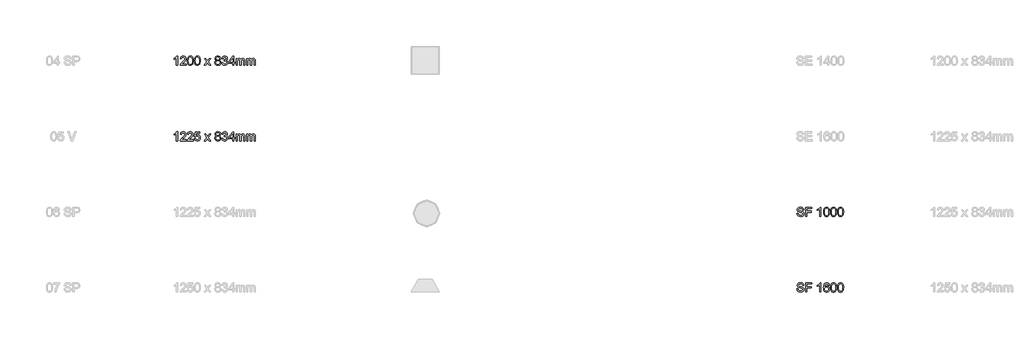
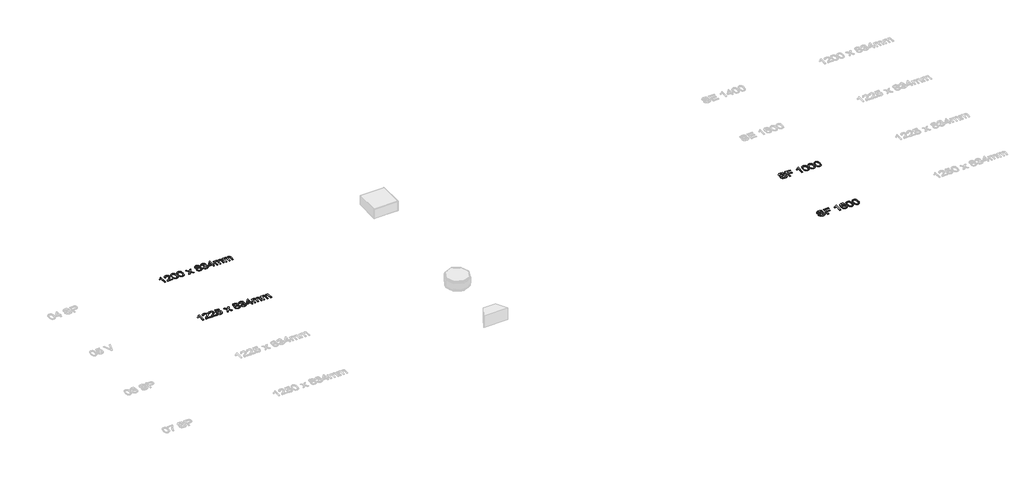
# One storey, part 23 of 67: 4 proxies.
"""IFC4 building model written with IfcOpenShell, lengths in millimetres."""

from ifc_helpers import new_model, si_unit, origin, origin_with_axes, place, context, project, spatial, polyline, outline, extrude, element, save

model = new_model("IFC4")

# Units and contexts
model_context = context("Model", 3, world=origin())
ifc_project = project(units=[si_unit("LENGTHUNIT", "METRE", prefix="MILLI")], contexts=[model_context])

# Site, building, storey
site = spatial("IfcSite", under=ifc_project)
building = spatial("IfcBuilding", under=site)
storey = spatial("IfcBuildingStorey", under=building, Name="Marelli - Linha COLAB - Planta Baixa", Elevation=0.0)

# Proxies
placement = place(None, origin())
element("IfcBuildingElementProxy", 1, Name="300mm Arial", ObjectType="300mm Arial", at=placement, inside=storey, context=model_context, shape_type="SweptSolid", body=[
    extrude(outline(polyline([(-25317.6891758, -1280.5663201), (-25355.3602921, -1280.5663201), (-25355.3602921, -1045.7104543), (-25391.0448457, -1071.1311002), (-25430.7025247, -1090.1505994), (-25430.7025247, -1054.5396222), (-25401.1156153, -1038.4447849), (-25375.4834373, -1019.2965271), (-25355.2775187, -998.9342587), (-25341.9693875, -979.1973896), (-25317.6891758, -979.1973896), (-25317.6891758, -1280.5663201)])), origin_with_axes(), (0.0, 0.0, 1.0), 10.0),
    extrude(outline(polyline([(-25035.1558035, -1242.8952038), (-25035.1558035, -1280.5663201), (-25232.9291641, -1280.5663201), (-25228.8824622, -1254.5938512), (-25219.5934418, -1234.2959621), (-25206.0002021, -1214.6050783), (-25186.3369094, -1193.9944896), (-25158.8377303, -1170.9374855), (-25118.1867698, -1134.8298677), (-25093.7961935, -1108.1768171), (-25081.6009054, -1086.5453558), (-25077.5358094, -1065.5025057), (-25081.3709792, -1046.6393564), (-25092.8764886, -1030.9583863), (-25110.5624155, -1020.390976), (-25132.9388378, -1016.8685059), (-25156.4373003, -1020.3082026), (-25174.6934443, -1030.6272925), (-25186.4748652, -1047.0164354), (-25190.5491583, -1068.6662908), (-25228.2202746, -1063.9574013), (-25219.0876041, -1027.5186897), (-25210.5412455, -1012.9827524), (-25199.341538, -1000.9024273), (-25185.745999, -991.4064733), (-25170.0121459, -984.623649), (-25132.1294974, -979.1973896), (-25111.9396737, -980.7057058), (-25093.9709375, -985.2306543), (-25078.2232888, -992.7722352), (-25064.6967277, -1003.3304485), (-25053.8327126, -1016.1235449), (-25046.0727017, -1030.3697751), (-25041.4166952, -1046.0691393), (-25039.8646931, -1063.2216373), (-25041.5385561, -1081.238658), (-25046.5601454, -1098.942979), (-25055.4720867, -1116.9508027), (-25068.8170061, -1135.8783314), (-25090.0897824, -1158.4754829), (-25122.7852948, -1187.4921753), (-25166.1217938, -1223.7285518), (-25183.117942, -1242.8952038), (-25035.1558035, -1242.8952038)])), origin_with_axes(), (0.0, 0.0, 1.0), 10.0),
    extrude(outline(polyline([(-24997.4846872, -1132.309876), (-24994.7163752, -1084.0713494), (-24986.4114392, -1045.6000897), (-24972.6526525, -1016.3074859), (-24953.5227888, -995.6049266), (-24928.8838922, -983.2992739), (-24898.5980069, -979.1973896), (-24875.384653, -981.6254108), (-24854.5993203, -988.9094743), (-24837.216896, -1000.7644716), (-24824.2122675, -1016.9052941), (-24814.3898182, -1037.1939862), (-24806.5539317, -1061.4925919), (-24801.4219779, -1092.3486943), (-24799.7113266, -1132.309876), (-24802.4520475, -1180.2724911), (-24810.6742101, -1218.6517803), (-24824.3502232, -1247.9719753), (-24843.4524958, -1268.757308), (-24868.1465748, -1281.1457342), (-24898.5980069, -1285.2752096), (-24919.3465514, -1283.4817849), (-24937.7406512, -1278.1015107), (-24953.7803062, -1269.1343871), (-24967.4655164, -1256.580414), (-24980.5989036, -1233.8866934), (-24989.9798945, -1205.6103636), (-24995.608489, -1171.7514244), (-24997.4846872, -1132.309876)]), holes=[polyline([(-24959.8135709, -1132.2362996), (-24955.398987, -1191.492892), (-24949.880757, -1211.7608907), (-24942.1552351, -1225.788691), (-24922.4367602, -1242.1502427), (-24898.5980069, -1247.6040933), (-24874.7592536, -1242.1318486), (-24855.0407787, -1225.7151146), (-24847.3152568, -1211.6643216), (-24841.7970269, -1191.4009215), (-24837.3824429, -1132.2362996), (-24841.6498741, -1074.3132795), (-24846.984163, -1054.1119594), (-24854.4521675, -1039.750766), (-24874.1338542, -1022.589071), (-24899.0394653, -1016.8685059), (-24922.6207012, -1021.9084893), (-24941.5666239, -1037.0284393), (-24949.5496632, -1052.6634241), (-24955.2518342, -1073.7430624), (-24959.8135709, -1132.2362996)])]), origin_with_axes(), (0.0, 0.0, 1.0), 10.0),
    extrude(outline(polyline([(-24766.7490998, -1132.309876), (-24763.9807878, -1084.0713494), (-24755.6758518, -1045.6000897), (-24741.9170652, -1016.3074859), (-24722.7872014, -995.6049266), (-24698.1483048, -983.2992739), (-24667.8624195, -979.1973896), (-24644.6490656, -981.6254108), (-24623.8637329, -988.9094743), (-24606.4813086, -1000.7644716), (-24593.4766801, -1016.9052941), (-24583.6542308, -1037.1939862), (-24575.8183443, -1061.4925919), (-24570.6863905, -1092.3486943), (-24568.9757392, -1132.309876), (-24571.7164601, -1180.2724911), (-24579.9386227, -1218.6517803), (-24593.6146359, -1247.9719753), (-24612.7169085, -1268.757308), (-24637.4109874, -1281.1457342), (-24667.8624195, -1285.2752096), (-24688.6109641, -1283.4817849), (-24707.0050638, -1278.1015107), (-24723.0447188, -1269.1343871), (-24736.729929, -1256.580414), (-24749.8633163, -1233.8866934), (-24759.2443071, -1205.6103636), (-24764.8729017, -1171.7514244), (-24766.7490998, -1132.309876)]), holes=[polyline([(-24729.0779835, -1132.2362996), (-24724.6633996, -1191.492892), (-24719.1451697, -1211.7608907), (-24711.4196478, -1225.788691), (-24691.7011728, -1242.1502427), (-24667.8624195, -1247.6040933), (-24644.0236662, -1242.1318486), (-24624.3051913, -1225.7151146), (-24616.5796694, -1211.6643216), (-24611.0614395, -1191.4009215), (-24606.6468555, -1132.2362996), (-24610.9142867, -1074.3132795), (-24616.2485756, -1054.1119594), (-24623.7165801, -1039.750766), (-24643.3982669, -1022.589071), (-24668.3038779, -1016.8685059), (-24691.8851138, -1021.9084893), (-24710.8310366, -1037.0284393), (-24718.8140759, -1052.6634241), (-24724.5162468, -1073.7430624), (-24729.0779835, -1132.2362996)])]), origin_with_axes(), (0.0, 0.0, 1.0), 10.0),
    extrude(outline(polyline([(-24432.4179426, -1280.5663201), (-24351.9253621, -1169.3188047), (-24427.7090531, -1059.2485118), (-24382.3859913, -1059.2485118), (-24345.818521, -1112.2235191), (-24328.7487964, -1137.2394947), (-24313.9599402, -1116.7852558), (-24272.3156983, -1059.2485118), (-24226.9926365, -1059.2485118), (-24306.6023003, -1169.3188047), (-24229.9356925, -1280.5663201), (-24275.2587543, -1280.5663201), (-24321.3911565, -1213.6853733), (-24329.8524424, -1201.4716911), (-24387.0948808, -1280.5663201), (-24432.4179426, -1280.5663201)])), origin_with_axes(), (0.0, 0.0, 1.0), 10.0),
    extrude(outline(polyline([(-24033.7810126, -1114.5779638), (-24053.950143, -1104.64515), (-24068.1044028, -1091.180669), (-24076.4645211, -1074.4604323), (-24079.2512273, -1054.7603514), (-24077.733714, -1039.3966796), (-24073.1811743, -1025.3113977), (-24065.5936082, -1012.5045058), (-24054.9710156, -1000.9760037), (-24041.8238328, -991.4478601), (-24026.662496, -984.6420431), (-23990.2973608, -979.1973896), (-23953.7114964, -984.7708018), (-23938.3846128, -991.7375671), (-23925.0350949, -1001.4910385), (-23914.2193642, -1013.2448683), (-23906.4938423, -1026.2127086), (-23901.8585292, -1040.3945595), (-23900.3134248, -1055.790421), (-23903.0633427, -1074.8559054), (-23911.3130965, -1091.2910335), (-23925.1546565, -1104.6727411), (-23944.6799934, -1114.5779638), (-23921.4942307, -1126.5249316), (-23904.6176441, -1144.1188881), (-23894.3261453, -1166.5137045), (-23890.8956457, -1192.8632524), (-23892.5970999, -1211.6528253), (-23897.7014626, -1228.8788997), (-23906.2087338, -1244.5414757), (-23918.1189134, -1258.6405532), (-23932.806602, -1270.2932154), (-23949.6464003, -1278.6165455), (-23968.6383084, -1283.6105436), (-23989.782326, -1285.2752096), (-24010.9263437, -1283.6036458), (-24029.9182517, -1278.5889543), (-24046.75805, -1270.2311353), (-24061.4457387, -1258.5301886), (-24073.3559183, -1244.3322428), (-24081.8631894, -1228.4834266), (-24086.9675521, -1210.9837399), (-24088.6690063, -1191.8331828), (-24085.100551, -1164.4627624), (-24074.3951849, -1141.9483843), (-24057.1047311, -1125.0626007), (-24033.7810126, -1114.5779638)]), holes=[polyline([(-24050.99789, -1190.5088076), (-24044.7071079, -1218.8725095), (-24035.9975017, -1231.0402065), (-24022.4502472, -1240.0993006), (-24006.2266512, -1245.7278951), (-23989.4880204, -1247.6040933), (-23963.8466454, -1243.6585589), (-23944.606417, -1231.8219557), (-23932.5766758, -1213.8969055), (-23928.566762, -1191.68603), (-23932.7054345, -1169.0980755), (-23945.1214518, -1150.7775522), (-23964.8031386, -1138.6374463), (-23990.7388192, -1134.5907444), (-24016.0215093, -1138.582264), (-24035.0685996, -1150.556823), (-24047.0155674, -1168.5278584), (-24050.99789, -1190.5088076)]), polyline([(-24041.5801109, -1055.8639974), (-24038.2415818, -1072.3083226), (-24028.2259945, -1085.4417098), (-24011.8276546, -1094.0501485), (-23989.3408676, -1096.9196281), (-23967.3783125, -1094.0685426), (-23951.2282929, -1085.5152862), (-23941.2954791, -1072.8233574), (-23937.9845411, -1057.5562546), (-23941.4058437, -1041.7097376), (-23951.6697513, -1028.6039416), (-23968.0405001, -1019.8023648), (-23989.782326, -1016.8685059), (-24011.6621077, -1019.7379855), (-24028.0052653, -1028.3464242), (-24038.1863995, -1040.9647766), (-24041.5801109, -1055.8639974)])]), origin_with_axes(), (0.0, 0.0, 1.0), 10.0),
    extrude(outline(polyline([(-23857.933419, -1200.5151979), (-23820.2623026, -1195.8063084), (-23811.8286079, -1219.4795148), (-23799.4769699, -1235.4639875), (-23782.6003834, -1244.5690668), (-23760.591843, -1247.6040933), (-23734.766527, -1243.4286327), (-23714.8273228, -1230.9022507), (-23702.0802117, -1212.2138454), (-23697.8311747, -1189.5523145), (-23702.0434235, -1168.0404148), (-23714.68017, -1150.5936112), (-23733.8100338, -1139.0329195), (-23757.5016343, -1135.1793556), (-23783.9155615, -1139.2996339), (-23779.7217068, -1101.6285176), (-23773.6884421, -1102.069976), (-23751.1188817, -1099.3660433), (-23730.9405542, -1091.2542454), (-23716.703521, -1077.5322469), (-23711.9578433, -1057.997713), (-23715.3975399, -1041.7281317), (-23725.7166299, -1028.5303652), (-23741.4619793, -1019.7839707), (-23761.1804542, -1016.8685059), (-23780.9357174, -1019.8115619), (-23797.0857369, -1028.6407298), (-23808.8763549, -1043.3560096), (-23815.5534131, -1063.9574013), (-23853.2245294, -1059.2485118), (-23842.1328873, -1025.4217623), (-23822.3960182, -1000.1666633), (-23795.3934798, -984.4397081), (-23762.5048294, -979.1973896), (-23738.822426, -981.7817606), (-23717.071403, -989.5348737), (-23698.7324855, -1001.76695), (-23685.2863986, -1017.7882109), (-23677.0366449, -1036.24669), (-23674.286727, -1055.790421), (-23676.8986891, -1074.0005798), (-23684.7345756, -1090.5184814), (-23697.6840219, -1104.5899677), (-23715.6366632, -1115.4608806), (-23692.0554273, -1124.9890243), (-23674.5810326, -1141.2126203), (-23663.7653019, -1163.2487518), (-23660.1600583, -1190.2145021), (-23661.9626801, -1209.3259717), (-23667.3705455, -1226.9291252), (-23676.3836543, -1243.0239625), (-23689.0020068, -1257.6104836), (-23704.3748756, -1269.7138012), (-23721.6515338, -1278.3590281), (-23740.8319814, -1283.5461642), (-23761.9162182, -1285.2752096), (-23780.9725056, -1283.7990831), (-23798.3365357, -1279.3707036), (-23814.0083087, -1271.9900711), (-23827.9878245, -1261.6571855), (-23839.7094646, -1248.9790523), (-23848.6076104, -1234.5626766), (-23854.6822618, -1218.4080585), (-23857.933419, -1200.5151979)])), origin_with_axes(), (0.0, 0.0, 1.0), 10.0),
    extrude(outline(polyline([(-23504.7667036, -1280.5663201), (-23504.7667036, -1209.932977), (-23641.3245002, -1209.932977), (-23641.3245002, -1172.2618607), (-23495.3489245, -983.9062792), (-23467.0955873, -983.9062792), (-23467.0955873, -1172.2618607), (-23429.424471, -1172.2618607), (-23429.424471, -1209.932977), (-23467.0955873, -1209.932977), (-23467.0955873, -1280.5663201), (-23504.7667036, -1280.5663201)]), holes=[polyline([(-23504.7667036, -1172.2618607), (-23504.7667036, -1055.8639974), (-23594.9713688, -1172.2618607), (-23504.7667036, -1172.2618607)])]), origin_with_axes(), (0.0, 0.0, 1.0), 10.0),
    extrude(outline(polyline([(-23387.0444651, -1280.5663201), (-23387.0444651, -1059.2485118), (-23349.3733488, -1059.2485118), (-23349.3733488, -1095.6688293), (-23338.0425834, -1078.9393956), (-23323.4744564, -1065.8335995), (-23306.1656085, -1057.3631165), (-23286.6126804, -1054.5396222), (-23265.6618008, -1057.4182988), (-23248.8679877, -1066.0543287), (-23236.3232117, -1079.8774946), (-23228.1194432, -1098.3175797), (-23214.3882477, -1079.1647233), (-23198.7256718, -1065.4841116), (-23181.1317154, -1057.2757446), (-23161.6063785, -1054.5396222), (-23133.2886619, -1059.0921619), (-23112.3469793, -1072.749781), (-23099.4067301, -1095.8803614), (-23095.0933138, -1128.8517853), (-23095.0933138, -1280.5663201), (-23132.7644301, -1280.5663201), (-23132.7644301, -1145.038593), (-23136.259309, -1113.5846825), (-23141.1705336, -1104.9118644), (-23148.9144496, -1098.0968505), (-23158.8748547, -1093.6822665), (-23170.4355464, -1092.2107385), (-23190.8438, -1095.981529), (-23207.4812633, -1107.2939003), (-23218.5453143, -1126.9204048), (-23222.2333313, -1155.6335945), (-23222.2333313, -1280.5663201), (-23259.9044476, -1280.5663201), (-23259.9044476, -1140.8447383), (-23262.0841484, -1119.5443708), (-23268.6232509, -1104.3508444), (-23280.1287603, -1095.245765), (-23297.2076819, -1092.2107385), (-23311.7206266, -1094.2340895), (-23325.0931371, -1100.3041424), (-23336.129597, -1110.2737445), (-23343.6343897, -1123.9957429), (-23347.938609, -1143.0336362), (-23349.3733488, -1168.9509227), (-23349.3733488, -1280.5663201), (-23387.0444651, -1280.5663201)])), origin_with_axes(), (0.0, 0.0, 1.0), 10.0),
    extrude(outline(polyline([(-23038.5866393, -1280.5663201), (-23038.5866393, -1059.2485118), (-23000.915523, -1059.2485118), (-23000.915523, -1095.6688293), (-22989.5847575, -1078.9393956), (-22975.0166305, -1065.8335995), (-22957.7077827, -1057.3631165), (-22938.1548546, -1054.5396222), (-22917.203975, -1057.4182988), (-22900.4101619, -1066.0543287), (-22887.8653859, -1079.8774946), (-22879.6616174, -1098.3175797), (-22865.9304219, -1079.1647233), (-22850.267846, -1065.4841116), (-22832.6738895, -1057.2757446), (-22813.1485526, -1054.5396222), (-22784.8308361, -1059.0921619), (-22763.8891535, -1072.749781), (-22750.9489043, -1095.8803614), (-22746.6354879, -1128.8517853), (-22746.6354879, -1280.5663201), (-22784.3066042, -1280.5663201), (-22784.3066042, -1145.038593), (-22787.8014832, -1113.5846825), (-22792.7127078, -1104.9118644), (-22800.4566238, -1098.0968505), (-22810.4170288, -1093.6822665), (-22821.9777205, -1092.2107385), (-22842.3859742, -1095.981529), (-22859.0234374, -1107.2939003), (-22870.0874885, -1126.9204048), (-22873.7755055, -1155.6335945), (-22873.7755055, -1280.5663201), (-22911.4466218, -1280.5663201), (-22911.4466218, -1140.8447383), (-22913.6263226, -1119.5443708), (-22920.165425, -1104.3508444), (-22931.6709344, -1095.245765), (-22948.7498561, -1092.2107385), (-22963.2628008, -1094.2340895), (-22976.6353113, -1100.3041424), (-22987.6717712, -1110.2737445), (-22995.1765639, -1123.9957429), (-22999.4807832, -1143.0336362), (-23000.915523, -1168.9509227), (-23000.915523, -1280.5663201), (-23038.5866393, -1280.5663201)])), origin_with_axes(), (0.0, 0.0, 1.0), 10.0),
])
element("IfcBuildingElementProxy", 2, Name="300mm Arial", ObjectType="300mm Arial", at=placement, inside=storey, context=model_context, shape_type="SweptSolid", body=[
    extrude(outline(polyline([(-25317.6891758, -3780.5663201), (-25355.3602921, -3780.5663201), (-25355.3602921, -3545.7104543), (-25391.0448457, -3571.1311002), (-25430.7025247, -3590.1505994), (-25430.7025247, -3554.5396222), (-25401.1156153, -3538.4447849), (-25375.4834373, -3519.2965271), (-25355.2775187, -3498.9342587), (-25341.9693875, -3479.1973896), (-25317.6891758, -3479.1973896), (-25317.6891758, -3780.5663201)])), origin_with_axes(), (0.0, 0.0, 1.0), 10.0),
    extrude(outline(polyline([(-25035.1558035, -3742.8952038), (-25035.1558035, -3780.5663201), (-25232.9291641, -3780.5663201), (-25228.8824622, -3754.5938512), (-25219.5934418, -3734.2959621), (-25206.0002021, -3714.6050783), (-25186.3369094, -3693.9944896), (-25158.8377303, -3670.9374855), (-25118.1867698, -3634.8298677), (-25093.7961935, -3608.1768171), (-25081.6009054, -3586.5453558), (-25077.5358094, -3565.5025057), (-25081.3709792, -3546.6393564), (-25092.8764886, -3530.9583863), (-25110.5624155, -3520.390976), (-25132.9388378, -3516.8685059), (-25156.4373003, -3520.3082026), (-25174.6934443, -3530.6272925), (-25186.4748652, -3547.0164354), (-25190.5491583, -3568.6662908), (-25228.2202746, -3563.9574013), (-25219.0876041, -3527.5186897), (-25210.5412455, -3512.9827524), (-25199.341538, -3500.9024273), (-25185.745999, -3491.4064733), (-25170.0121459, -3484.623649), (-25132.1294974, -3479.1973896), (-25111.9396737, -3480.7057058), (-25093.9709375, -3485.2306543), (-25078.2232888, -3492.7722352), (-25064.6967277, -3503.3304485), (-25053.8327126, -3516.1235449), (-25046.0727017, -3530.3697751), (-25041.4166952, -3546.0691393), (-25039.8646931, -3563.2216373), (-25041.5385561, -3581.238658), (-25046.5601454, -3598.942979), (-25055.4720867, -3616.9508027), (-25068.8170061, -3635.8783314), (-25090.0897824, -3658.4754829), (-25122.7852948, -3687.4921753), (-25166.1217938, -3723.7285518), (-25183.117942, -3742.8952038), (-25035.1558035, -3742.8952038)])), origin_with_axes(), (0.0, 0.0, 1.0), 10.0),
    extrude(outline(polyline([(-24804.4202161, -3742.8952038), (-24804.4202161, -3780.5663201), (-25002.1935767, -3780.5663201), (-24998.1468748, -3754.5938512), (-24988.8578544, -3734.2959621), (-24975.2646147, -3714.6050783), (-24955.6013221, -3693.9944896), (-24928.1021429, -3670.9374855), (-24887.4511825, -3634.8298677), (-24863.0606062, -3608.1768171), (-24850.865318, -3586.5453558), (-24846.800222, -3565.5025057), (-24850.6353918, -3546.6393564), (-24862.1409012, -3530.9583863), (-24879.8268281, -3520.390976), (-24902.2032505, -3516.8685059), (-24925.7017129, -3520.3082026), (-24943.9578569, -3530.6272925), (-24955.7392778, -3547.0164354), (-24959.8135709, -3568.6662908), (-24997.4846872, -3563.9574013), (-24988.3520167, -3527.5186897), (-24979.8056581, -3512.9827524), (-24968.6059506, -3500.9024273), (-24955.0104116, -3491.4064733), (-24939.2765585, -3484.623649), (-24901.3939101, -3479.1973896), (-24881.2040863, -3480.7057058), (-24863.2353501, -3485.2306543), (-24847.4877015, -3492.7722352), (-24833.9611404, -3503.3304485), (-24823.0971252, -3516.1235449), (-24815.3371143, -3530.3697751), (-24810.6811078, -3546.0691393), (-24809.1291057, -3563.2216373), (-24810.8029688, -3581.238658), (-24815.824558, -3598.942979), (-24824.7364993, -3616.9508027), (-24838.0814187, -3635.8783314), (-24859.3541951, -3658.4754829), (-24892.0497074, -3687.4921753), (-24935.3862064, -3723.7285518), (-24952.3823546, -3742.8952038), (-24804.4202161, -3742.8952038)])), origin_with_axes(), (0.0, 0.0, 1.0), 10.0),
    extrude(outline(polyline([(-24766.7490998, -3700.5151979), (-24729.0779835, -3695.8063084), (-24722.161802, -3718.421854), (-24710.0952726, -3734.6178589), (-24692.9335775, -3744.3575347), (-24670.7318991, -3747.6040933), (-24643.7293606, -3743.0883418), (-24623.4958509, -3729.5410873), (-24610.8591044, -3708.5258284), (-24606.6468555, -3681.6060634), (-24610.5923899, -3656.2589939), (-24622.4289931, -3636.8716128), (-24642.2486356, -3624.56596), (-24670.1432879, -3620.4640758), (-24688.417826, -3622.1011506), (-24703.2158793, -3627.0123753), (-24724.369094, -3644.0085235), (-24762.0402103, -3639.2996339), (-24729.0779835, -3483.9062792), (-24583.1024078, -3483.9062792), (-24583.1024078, -3521.5773955), (-24698.6173543, -3521.5773955), (-24714.7305857, -3604.5715736), (-24687.8200178, -3588.237613), (-24659.6218628, -3582.7929595), (-24641.2760476, -3584.4806181), (-24624.424753, -3589.5435941), (-24609.0679789, -3597.9818873), (-24595.2057255, -3609.7954979), (-24583.7301065, -3624.2624574), (-24575.5332358, -3640.6607973), (-24570.6151134, -3658.9905177), (-24568.9757392, -3679.2516186), (-24574.8802453, -3716.9227349), (-24582.2608778, -3733.716548), (-24592.5937633, -3749.1491977), (-24608.2471422, -3764.9543279), (-24626.5124833, -3776.2437066), (-24647.3897865, -3783.0173339), (-24670.8790519, -3785.2752096), (-24707.8787836, -3779.4718711), (-24723.5574543, -3772.217698), (-24737.3553284, -3762.0618557), (-24748.8355459, -3749.5101819), (-24757.561247, -3735.0685143), (-24766.7490998, -3700.5151979)])), origin_with_axes(), (0.0, 0.0, 1.0), 10.0),
    extrude(outline(polyline([(-24432.4179426, -3780.5663201), (-24351.9253621, -3669.3188047), (-24427.7090531, -3559.2485118), (-24382.3859913, -3559.2485118), (-24345.818521, -3612.2235191), (-24328.7487964, -3637.2394947), (-24313.9599402, -3616.7852558), (-24272.3156983, -3559.2485118), (-24226.9926365, -3559.2485118), (-24306.6023003, -3669.3188047), (-24229.9356925, -3780.5663201), (-24275.2587543, -3780.5663201), (-24321.3911565, -3713.6853733), (-24329.8524424, -3701.4716911), (-24387.0948808, -3780.5663201), (-24432.4179426, -3780.5663201)])), origin_with_axes(), (0.0, 0.0, 1.0), 10.0),
    extrude(outline(polyline([(-24033.7810126, -3614.5779638), (-24053.950143, -3604.64515), (-24068.1044028, -3591.180669), (-24076.4645211, -3574.4604323), (-24079.2512273, -3554.7603514), (-24077.733714, -3539.3966796), (-24073.1811743, -3525.3113977), (-24065.5936082, -3512.5045058), (-24054.9710156, -3500.9760037), (-24041.8238328, -3491.4478601), (-24026.662496, -3484.6420431), (-23990.2973608, -3479.1973896), (-23953.7114964, -3484.7708018), (-23938.3846128, -3491.7375671), (-23925.0350949, -3501.4910385), (-23914.2193642, -3513.2448683), (-23906.4938423, -3526.2127086), (-23901.8585292, -3540.3945595), (-23900.3134248, -3555.790421), (-23903.0633427, -3574.8559054), (-23911.3130965, -3591.2910335), (-23925.1546565, -3604.6727411), (-23944.6799934, -3614.5779638), (-23921.4942307, -3626.5249316), (-23904.6176441, -3644.1188881), (-23894.3261453, -3666.5137045), (-23890.8956457, -3692.8632524), (-23892.5970999, -3711.6528253), (-23897.7014626, -3728.8788997), (-23906.2087338, -3744.5414757), (-23918.1189134, -3758.6405532), (-23932.806602, -3770.2932154), (-23949.6464003, -3778.6165455), (-23968.6383084, -3783.6105436), (-23989.782326, -3785.2752096), (-24010.9263437, -3783.6036458), (-24029.9182517, -3778.5889543), (-24046.75805, -3770.2311353), (-24061.4457387, -3758.5301886), (-24073.3559183, -3744.3322428), (-24081.8631894, -3728.4834266), (-24086.9675521, -3710.9837399), (-24088.6690063, -3691.8331828), (-24085.100551, -3664.4627624), (-24074.3951849, -3641.9483843), (-24057.1047311, -3625.0626007), (-24033.7810126, -3614.5779638)]), holes=[polyline([(-24041.5801109, -3555.8639974), (-24038.2415818, -3572.3083226), (-24028.2259945, -3585.4417098), (-24011.8276546, -3594.0501485), (-23989.3408676, -3596.9196281), (-23967.3783125, -3594.0685426), (-23951.2282929, -3585.5152862), (-23941.2954791, -3572.8233574), (-23937.9845411, -3557.5562546), (-23941.4058437, -3541.7097376), (-23951.6697513, -3528.6039416), (-23968.0405001, -3519.8023648), (-23989.782326, -3516.8685059), (-24011.6621077, -3519.7379855), (-24028.0052653, -3528.3464242), (-24038.1863995, -3540.9647766), (-24041.5801109, -3555.8639974)]), polyline([(-24050.99789, -3690.5088076), (-24044.7071079, -3718.8725095), (-24035.9975017, -3731.0402065), (-24022.4502472, -3740.0993006), (-24006.2266512, -3745.7278951), (-23989.4880204, -3747.6040933), (-23963.8466454, -3743.6585589), (-23944.606417, -3731.8219557), (-23932.5766758, -3713.8969055), (-23928.566762, -3691.68603), (-23932.7054345, -3669.0980755), (-23945.1214518, -3650.7775522), (-23964.8031386, -3638.6374463), (-23990.7388192, -3634.5907444), (-24016.0215093, -3638.582264), (-24035.0685996, -3650.556823), (-24047.0155674, -3668.5278584), (-24050.99789, -3690.5088076)])]), origin_with_axes(), (0.0, 0.0, 1.0), 10.0),
    extrude(outline(polyline([(-23857.933419, -3700.5151979), (-23820.2623026, -3695.8063084), (-23811.8286079, -3719.4795148), (-23799.4769699, -3735.4639875), (-23782.6003834, -3744.5690668), (-23760.591843, -3747.6040933), (-23734.766527, -3743.4286327), (-23714.8273228, -3730.9022507), (-23702.0802117, -3712.2138454), (-23697.8311747, -3689.5523145), (-23702.0434235, -3668.0404148), (-23714.68017, -3650.5936112), (-23733.8100338, -3639.0329195), (-23757.5016343, -3635.1793556), (-23783.9155615, -3639.2996339), (-23779.7217068, -3601.6285176), (-23773.6884421, -3602.069976), (-23751.1188817, -3599.3660433), (-23730.9405542, -3591.2542454), (-23716.703521, -3577.5322469), (-23711.9578433, -3557.997713), (-23715.3975399, -3541.7281317), (-23725.7166299, -3528.5303652), (-23741.4619793, -3519.7839707), (-23761.1804542, -3516.8685059), (-23780.9357174, -3519.8115619), (-23797.0857369, -3528.6407298), (-23808.8763549, -3543.3560096), (-23815.5534131, -3563.9574013), (-23853.2245294, -3559.2485118), (-23842.1328873, -3525.4217623), (-23822.3960182, -3500.1666633), (-23795.3934798, -3484.4397081), (-23762.5048294, -3479.1973896), (-23738.822426, -3481.7817606), (-23717.071403, -3489.5348737), (-23698.7324855, -3501.76695), (-23685.2863986, -3517.7882109), (-23677.0366449, -3536.24669), (-23674.286727, -3555.790421), (-23676.8986891, -3574.0005798), (-23684.7345756, -3590.5184814), (-23697.6840219, -3604.5899677), (-23715.6366632, -3615.4608806), (-23692.0554273, -3624.9890243), (-23674.5810326, -3641.2126203), (-23663.7653019, -3663.2487518), (-23660.1600583, -3690.2145021), (-23661.9626801, -3709.3259717), (-23667.3705455, -3726.9291252), (-23676.3836543, -3743.0239625), (-23689.0020068, -3757.6104836), (-23704.3748756, -3769.7138012), (-23721.6515338, -3778.3590281), (-23740.8319814, -3783.5461642), (-23761.9162182, -3785.2752096), (-23780.9725056, -3783.7990831), (-23798.3365357, -3779.3707036), (-23814.0083087, -3771.9900711), (-23827.9878245, -3761.6571855), (-23839.7094646, -3748.9790523), (-23848.6076104, -3734.5626766), (-23854.6822618, -3718.4080585), (-23857.933419, -3700.5151979)])), origin_with_axes(), (0.0, 0.0, 1.0), 10.0),
    extrude(outline(polyline([(-23504.7667036, -3780.5663201), (-23504.7667036, -3709.932977), (-23641.3245002, -3709.932977), (-23641.3245002, -3672.2618607), (-23495.3489245, -3483.9062792), (-23467.0955873, -3483.9062792), (-23467.0955873, -3672.2618607), (-23429.424471, -3672.2618607), (-23429.424471, -3709.932977), (-23467.0955873, -3709.932977), (-23467.0955873, -3780.5663201), (-23504.7667036, -3780.5663201)]), holes=[polyline([(-23504.7667036, -3672.2618607), (-23504.7667036, -3555.8639974), (-23594.9713688, -3672.2618607), (-23504.7667036, -3672.2618607)])]), origin_with_axes(), (0.0, 0.0, 1.0), 10.0),
    extrude(outline(polyline([(-23387.0444651, -3780.5663201), (-23387.0444651, -3559.2485118), (-23349.3733488, -3559.2485118), (-23349.3733488, -3595.6688293), (-23338.0425834, -3578.9393956), (-23323.4744564, -3565.8335995), (-23306.1656085, -3557.3631165), (-23286.6126804, -3554.5396222), (-23265.6618008, -3557.4182988), (-23248.8679877, -3566.0543287), (-23236.3232117, -3579.8774946), (-23228.1194432, -3598.3175797), (-23214.3882477, -3579.1647233), (-23198.7256718, -3565.4841116), (-23181.1317154, -3557.2757446), (-23161.6063785, -3554.5396222), (-23133.2886619, -3559.0921619), (-23112.3469793, -3572.749781), (-23099.4067301, -3595.8803614), (-23095.0933138, -3628.8517853), (-23095.0933138, -3780.5663201), (-23132.7644301, -3780.5663201), (-23132.7644301, -3645.038593), (-23136.259309, -3613.5846825), (-23141.1705336, -3604.9118644), (-23148.9144496, -3598.0968505), (-23158.8748547, -3593.6822665), (-23170.4355464, -3592.2107385), (-23190.8438, -3595.981529), (-23207.4812633, -3607.2939003), (-23218.5453143, -3626.9204048), (-23222.2333313, -3655.6335945), (-23222.2333313, -3780.5663201), (-23259.9044476, -3780.5663201), (-23259.9044476, -3640.8447383), (-23262.0841484, -3619.5443708), (-23268.6232509, -3604.3508444), (-23280.1287603, -3595.245765), (-23297.2076819, -3592.2107385), (-23311.7206266, -3594.2340895), (-23325.0931371, -3600.3041424), (-23336.129597, -3610.2737445), (-23343.6343897, -3623.9957429), (-23347.938609, -3643.0336362), (-23349.3733488, -3668.9509227), (-23349.3733488, -3780.5663201), (-23387.0444651, -3780.5663201)])), origin_with_axes(), (0.0, 0.0, 1.0), 10.0),
    extrude(outline(polyline([(-23038.5866393, -3780.5663201), (-23038.5866393, -3559.2485118), (-23000.915523, -3559.2485118), (-23000.915523, -3595.6688293), (-22989.5847575, -3578.9393956), (-22975.0166305, -3565.8335995), (-22957.7077827, -3557.3631165), (-22938.1548546, -3554.5396222), (-22917.203975, -3557.4182988), (-22900.4101619, -3566.0543287), (-22887.8653859, -3579.8774946), (-22879.6616174, -3598.3175797), (-22865.9304219, -3579.1647233), (-22850.267846, -3565.4841116), (-22832.6738895, -3557.2757446), (-22813.1485526, -3554.5396222), (-22784.8308361, -3559.0921619), (-22763.8891535, -3572.749781), (-22750.9489043, -3595.8803614), (-22746.6354879, -3628.8517853), (-22746.6354879, -3780.5663201), (-22784.3066042, -3780.5663201), (-22784.3066042, -3645.038593), (-22787.8014832, -3613.5846825), (-22792.7127078, -3604.9118644), (-22800.4566238, -3598.0968505), (-22810.4170288, -3593.6822665), (-22821.9777205, -3592.2107385), (-22842.3859742, -3595.981529), (-22859.0234374, -3607.2939003), (-22870.0874885, -3626.9204048), (-22873.7755055, -3655.6335945), (-22873.7755055, -3780.5663201), (-22911.4466218, -3780.5663201), (-22911.4466218, -3640.8447383), (-22913.6263226, -3619.5443708), (-22920.165425, -3604.3508444), (-22931.6709344, -3595.245765), (-22948.7498561, -3592.2107385), (-22963.2628008, -3594.2340895), (-22976.6353113, -3600.3041424), (-22987.6717712, -3610.2737445), (-22995.1765639, -3623.9957429), (-22999.4807832, -3643.0336362), (-23000.915523, -3668.9509227), (-23000.915523, -3780.5663201), (-23038.5866393, -3780.5663201)])), origin_with_axes(), (0.0, 0.0, 1.0), 10.0),
])
element("IfcBuildingElementProxy", 3, Name="300mm Arial", ObjectType="300mm Arial", at=placement, inside=storey, context=model_context, shape_type="SweptSolid", body=[
    extrude(outline(polyline([(-4865.6357801, -6176.9707502), (-4827.9646638, -6176.9707502), (-4823.6420504, -6197.8756446), (-4815.824558, -6214.6786547), (-4803.6292699, -6228.0143771), (-4786.1732692, -6238.517408), (-4764.8361135, -6245.332422), (-4740.9973602, -6247.6040933), (-4720.0096923, -6245.884245), (-4701.6339867, -6240.7247), (-4686.7439629, -6232.5577197), (-4676.2133408, -6221.8155654), (-4669.9501499, -6209.4823216), (-4667.8624195, -6196.5420724), (-4669.425918, -6183.932917), (-4674.1164135, -6173.0344129), (-4683.6445571, -6163.7361954), (-4699.7210003, -6155.9279001), (-4754.5722058, -6141.5437141), (-4790.5786561, -6132.0247675), (-4813.617266, -6122.9656733), (-4832.3700507, -6110.2921386), (-4845.6597878, -6094.9330653), (-4853.5784477, -6077.2195472), (-4856.2180011, -6057.4826782), (-4852.9530484, -6035.4189555), (-4843.1581902, -6014.845155), (-4827.0909441, -5997.4075484), (-4805.0088273, -5984.7524077), (-4778.5029296, -5977.054477), (-4749.1643405, -5974.4885001), (-4717.3793361, -5977.1740386), (-4689.5674572, -5985.2306543), (-4666.7219853, -5998.4928003), (-4649.8362018, -6016.7949295), (-4639.1492298, -6038.9966079), (-4634.9001928, -6063.9574013), (-4672.5713091, -6063.9574013), (-4679.4874906, -6041.4798114), (-4693.9084648, -6025.2562154), (-4716.441237, -6015.4337661), (-4747.6928125, -6012.1596164), (-4779.680152, -6015.3969779), (-4801.624313, -6025.1090626), (-4814.3162418, -6039.4012781), (-4818.5468848, -6056.3790322), (-4815.5486465, -6070.8551887), (-4806.5539317, -6082.4986539), (-4785.2903524, -6092.9097143), (-4745.0440621, -6103.541504), (-4703.5101849, -6113.6398648), (-4678.3838446, -6122.4506385), (-4656.9087331, -6136.1174547), (-4641.9267389, -6152.9848441), (-4633.1251621, -6172.868866), (-4630.1913032, -6195.5855792), (-4633.5666205, -6218.8081301), (-4643.6925724, -6240.6511236), (-4660.1552917, -6259.4498935), (-4682.5409111, -6273.539774), (-4709.4606761, -6282.3413507), (-4739.5258322, -6285.2752096), (-4776.4335934, -6282.1114244), (-4806.8114491, -6272.620069), (-4831.0088873, -6256.764355), (-4849.375396, -6234.5074943), (-4861.1660139, -6207.3945912), (-4865.6357801, -6176.9707502)])), origin_with_axes(), (0.0, 0.0, 1.0), 10.0),
    extrude(outline(polyline([(-4573.6846288, -6280.5663201), (-4573.6846288, -5979.1973896), (-4371.2023786, -5979.1973896), (-4371.2023786, -6016.8685059), (-4536.0135125, -6016.8685059), (-4536.0135125, -6106.3374072), (-4394.7468263, -6106.3374072), (-4394.7468263, -6144.0085235), (-4536.0135125, -6144.0085235), (-4536.0135125, -6280.5663201), (-4573.6846288, -6280.5663201)])), origin_with_axes(), (0.0, 0.0, 1.0), 10.0),
    extrude(outline(polyline([(-4074.5423377, -6280.5663201), (-4112.213454, -6280.5663201), (-4112.213454, -6045.7104543), (-4147.8980076, -6071.1311002), (-4187.5556866, -6090.1505994), (-4187.5556866, -6054.5396222), (-4157.9687772, -6038.4447849), (-4132.3365992, -6019.2965271), (-4112.1306806, -5998.9342587), (-4098.8225494, -5979.1973896), (-4074.5423377, -5979.1973896), (-4074.5423377, -6280.5663201)])), origin_with_axes(), (0.0, 0.0, 1.0), 10.0),
    extrude(outline(polyline([(-3985.0734365, -6132.309876), (-3982.3051245, -6084.0713494), (-3974.0001884, -6045.6000897), (-3960.2414018, -6016.3074859), (-3941.1115381, -5995.6049266), (-3916.4726414, -5983.2992739), (-3886.1867562, -5979.1973896), (-3862.9734023, -5981.6254108), (-3842.1880696, -5988.9094743), (-3824.8056453, -6000.7644716), (-3811.8010168, -6016.9052941), (-3801.9785675, -6037.1939862), (-3794.142681, -6061.4925919), (-3789.0107272, -6092.3486943), (-3787.3000759, -6132.309876), (-3790.0407967, -6180.2724911), (-3798.2629593, -6218.6517803), (-3811.9389725, -6247.9719753), (-3831.0412451, -6268.757308), (-3855.735324, -6281.1457342), (-3886.1867562, -6285.2752096), (-3906.9353007, -6283.4817849), (-3925.3294005, -6278.1015107), (-3941.3690555, -6269.1343871), (-3955.0542657, -6256.580414), (-3968.1876529, -6233.8866934), (-3977.5686438, -6205.6103636), (-3983.1972383, -6171.7514244), (-3985.0734365, -6132.309876)]), holes=[polyline([(-3947.4023202, -6132.2362996), (-3942.9877362, -6191.492892), (-3937.4695063, -6211.7608907), (-3929.7439844, -6225.788691), (-3910.0255095, -6242.1502427), (-3886.1867562, -6247.6040933), (-3862.3480029, -6242.1318486), (-3842.629528, -6225.7151146), (-3834.9040061, -6211.6643216), (-3829.3857761, -6191.4009215), (-3824.9711922, -6132.2362996), (-3829.2386233, -6074.3132795), (-3834.5729123, -6054.1119594), (-3842.0409168, -6039.750766), (-3861.7226035, -6022.589071), (-3886.6282146, -6016.8685059), (-3910.2094505, -6021.9084893), (-3929.1553732, -6037.0284393), (-3937.1384125, -6052.6634241), (-3942.8405834, -6073.7430624), (-3947.4023202, -6132.2362996)])]), origin_with_axes(), (0.0, 0.0, 1.0), 10.0),
    extrude(outline(polyline([(-3754.3378491, -6132.309876), (-3751.5695371, -6084.0713494), (-3743.2646011, -6045.6000897), (-3729.5058144, -6016.3074859), (-3710.3759507, -5995.6049266), (-3685.7370541, -5983.2992739), (-3655.4511688, -5979.1973896), (-3632.2378149, -5981.6254108), (-3611.4524822, -5988.9094743), (-3594.0700579, -6000.7644716), (-3581.0654294, -6016.9052941), (-3571.2429801, -6037.1939862), (-3563.4070936, -6061.4925919), (-3558.2751398, -6092.3486943), (-3556.5644885, -6132.309876), (-3559.3052094, -6180.2724911), (-3567.527372, -6218.6517803), (-3581.2033851, -6247.9719753), (-3600.3056577, -6268.757308), (-3624.9997367, -6281.1457342), (-3655.4511688, -6285.2752096), (-3676.1997133, -6283.4817849), (-3694.5938131, -6278.1015107), (-3710.6334681, -6269.1343871), (-3724.3186783, -6256.580414), (-3737.4520655, -6233.8866934), (-3746.8330564, -6205.6103636), (-3752.4616509, -6171.7514244), (-3754.3378491, -6132.309876)]), holes=[polyline([(-3716.6667328, -6132.2362996), (-3712.2521489, -6191.492892), (-3706.7339189, -6211.7608907), (-3699.008397, -6225.788691), (-3679.2899221, -6242.1502427), (-3655.4511688, -6247.6040933), (-3631.6124155, -6242.1318486), (-3611.8939406, -6225.7151146), (-3604.1684187, -6211.6643216), (-3598.6501888, -6191.4009215), (-3594.2356048, -6132.2362996), (-3598.503036, -6074.3132795), (-3603.8373249, -6054.1119594), (-3611.3053294, -6039.750766), (-3630.9870161, -6022.589071), (-3655.8926272, -6016.8685059), (-3679.4738631, -6021.9084893), (-3698.4197858, -6037.0284393), (-3706.4028251, -6052.6634241), (-3712.1049961, -6073.7430624), (-3716.6667328, -6132.2362996)])]), origin_with_axes(), (0.0, 0.0, 1.0), 10.0),
    extrude(outline(polyline([(-3523.6022617, -6132.309876), (-3520.8339497, -6084.0713494), (-3512.5290137, -6045.6000897), (-3498.7702271, -6016.3074859), (-3479.6403633, -5995.6049266), (-3455.0014667, -5983.2992739), (-3424.7155814, -5979.1973896), (-3401.5022275, -5981.6254108), (-3380.7168948, -5988.9094743), (-3363.3344705, -6000.7644716), (-3350.329842, -6016.9052941), (-3340.5073927, -6037.1939862), (-3332.6715062, -6061.4925919), (-3327.5395524, -6092.3486943), (-3325.8289011, -6132.309876), (-3328.569622, -6180.2724911), (-3336.7917846, -6218.6517803), (-3350.4677978, -6247.9719753), (-3369.5700704, -6268.757308), (-3394.2641493, -6281.1457342), (-3424.7155814, -6285.2752096), (-3445.464126, -6283.4817849), (-3463.8582257, -6278.1015107), (-3479.8978807, -6269.1343871), (-3493.5830909, -6256.580414), (-3506.7164782, -6233.8866934), (-3516.097469, -6205.6103636), (-3521.7260636, -6171.7514244), (-3523.6022617, -6132.309876)]), holes=[polyline([(-3485.9311454, -6132.2362996), (-3481.5165615, -6191.492892), (-3475.9983316, -6211.7608907), (-3468.2728097, -6225.788691), (-3448.5543347, -6242.1502427), (-3424.7155814, -6247.6040933), (-3400.8768281, -6242.1318486), (-3381.1583532, -6225.7151146), (-3373.4328313, -6211.6643216), (-3367.9146014, -6191.4009215), (-3363.5000174, -6132.2362996), (-3367.7674486, -6074.3132795), (-3373.1017375, -6054.1119594), (-3380.569742, -6039.750766), (-3400.2514288, -6022.589071), (-3425.1570398, -6016.8685059), (-3448.7382757, -6021.9084893), (-3467.6841985, -6037.0284393), (-3475.6672378, -6052.6634241), (-3481.3694087, -6073.7430624), (-3485.9311454, -6132.2362996)])]), origin_with_axes(), (0.0, 0.0, 1.0), 10.0),
])
element("IfcBuildingElementProxy", 4, Name="300mm Arial", ObjectType="300mm Arial", at=placement, inside=storey, context=model_context, shape_type="SweptSolid", body=[
    extrude(outline(polyline([(-4865.6357801, -8676.9707502), (-4827.9646638, -8676.9707502), (-4823.6420504, -8697.8756446), (-4815.824558, -8714.6786547), (-4803.6292699, -8728.0143771), (-4786.1732692, -8738.517408), (-4764.8361135, -8745.332422), (-4740.9973602, -8747.6040933), (-4720.0096923, -8745.884245), (-4701.6339867, -8740.7247), (-4686.7439629, -8732.5577197), (-4676.2133408, -8721.8155654), (-4669.9501499, -8709.4823216), (-4667.8624195, -8696.5420724), (-4669.425918, -8683.932917), (-4674.1164135, -8673.0344129), (-4683.6445571, -8663.7361954), (-4699.7210003, -8655.9279001), (-4754.5722058, -8641.5437141), (-4790.5786561, -8632.0247675), (-4813.617266, -8622.9656733), (-4832.3700507, -8610.2921386), (-4845.6597878, -8594.9330653), (-4853.5784477, -8577.2195472), (-4856.2180011, -8557.4826782), (-4852.9530484, -8535.4189555), (-4843.1581902, -8514.845155), (-4827.0909441, -8497.4075484), (-4805.0088273, -8484.7524077), (-4778.5029296, -8477.054477), (-4749.1643405, -8474.4885001), (-4717.3793361, -8477.1740386), (-4689.5674572, -8485.2306543), (-4666.7219853, -8498.4928003), (-4649.8362018, -8516.7949295), (-4639.1492298, -8538.9966079), (-4634.9001928, -8563.9574013), (-4672.5713091, -8563.9574013), (-4679.4874906, -8541.4798114), (-4693.9084648, -8525.2562154), (-4716.441237, -8515.4337661), (-4747.6928125, -8512.1596164), (-4779.680152, -8515.3969779), (-4801.624313, -8525.1090626), (-4814.3162418, -8539.4012781), (-4818.5468848, -8556.3790322), (-4815.5486465, -8570.8551887), (-4806.5539317, -8582.4986539), (-4785.2903524, -8592.9097143), (-4745.0440621, -8603.541504), (-4703.5101849, -8613.6398648), (-4678.3838446, -8622.4506385), (-4656.9087331, -8636.1174547), (-4641.9267389, -8652.9848441), (-4633.1251621, -8672.868866), (-4630.1913032, -8695.5855792), (-4633.5666205, -8718.8081301), (-4643.6925724, -8740.6511236), (-4660.1552917, -8759.4498935), (-4682.5409111, -8773.539774), (-4709.4606761, -8782.3413507), (-4739.5258322, -8785.2752096), (-4776.4335934, -8782.1114244), (-4806.8114491, -8772.620069), (-4831.0088873, -8756.764355), (-4849.375396, -8734.5074943), (-4861.1660139, -8707.3945912), (-4865.6357801, -8676.9707502)])), origin_with_axes(), (0.0, 0.0, 1.0), 10.0),
    extrude(outline(polyline([(-4573.6846288, -8780.5663201), (-4573.6846288, -8479.1973896), (-4371.2023786, -8479.1973896), (-4371.2023786, -8516.8685059), (-4536.0135125, -8516.8685059), (-4536.0135125, -8606.3374072), (-4394.7468263, -8606.3374072), (-4394.7468263, -8644.0085235), (-4536.0135125, -8644.0085235), (-4536.0135125, -8780.5663201), (-4573.6846288, -8780.5663201)])), origin_with_axes(), (0.0, 0.0, 1.0), 10.0),
    extrude(outline(polyline([(-4074.5423377, -8780.5663201), (-4112.213454, -8780.5663201), (-4112.213454, -8545.7104543), (-4147.8980076, -8571.1311002), (-4187.5556866, -8590.1505994), (-4187.5556866, -8554.5396222), (-4157.9687772, -8538.4447849), (-4132.3365992, -8519.2965271), (-4112.1306806, -8498.9342587), (-4098.8225494, -8479.1973896), (-4074.5423377, -8479.1973896), (-4074.5423377, -8780.5663201)])), origin_with_axes(), (0.0, 0.0, 1.0), 10.0),
    extrude(outline(polyline([(-3792.0089654, -8559.2485118), (-3829.6800817, -8563.9574013), (-3835.7501346, -8545.2873901), (-3843.9539031, -8532.5402789), (-3861.0420218, -8520.7864492), (-3881.6985958, -8516.8685059), (-3899.2097788, -8519.1493743), (-3915.6908922, -8525.9919794), (-3929.845152, -8540.4037566), (-3941.4058437, -8560.2417932), (-3949.214139, -8588.3019923), (-3952.1112097, -8627.3802573), (-3937.0004568, -8609.7495127), (-3918.8914656, -8597.3242983), (-3898.7959116, -8589.9574613), (-3877.7254703, -8587.501849), (-3859.6256761, -8589.1803106), (-3842.9238335, -8594.2156954), (-3827.6199425, -8602.6080034), (-3813.7140031, -8614.3572346), (-3802.15791, -8628.7644133), (-3793.9035577, -8645.1305635), (-3788.9509463, -8663.4556854), (-3787.3000759, -8683.7397789), (-3790.4086787, -8710.7147262), (-3799.7344873, -8735.7215049), (-3814.5049494, -8756.9299019), (-3833.9475129, -8772.5097044), (-3857.1792609, -8782.0838333), (-3883.3172766, -8785.2752096), (-3905.7741732, -8783.1598881), (-3926.0559674, -8776.8139237), (-3944.1626594, -8766.2373164), (-3960.094249, -8751.4300661), (-3973.0827827, -8731.7667734), (-3982.3603068, -8706.622039), (-3987.9268212, -8675.9958629), (-3989.782326, -8639.8882451), (-3987.7221869, -8599.4074301), (-3981.5417693, -8564.8587122), (-3971.2410735, -8536.2420915), (-3956.8200993, -8513.557568), (-3941.189713, -8498.5249899), (-3923.0669262, -8487.7874342), (-3902.4517389, -8481.3449008), (-3879.3441511, -8479.1973896), (-3846.2899538, -8484.5132844), (-3819.8208443, -8500.4609689), (-3801.2795917, -8525.7896443), (-3792.0089654, -8559.2485118)]), holes=[polyline([(-3952.1112097, -8683.1511677), (-3949.9315089, -8699.8438133), (-3943.3924064, -8715.7823007), (-3933.2388634, -8729.485905), (-3920.2158407, -8739.4739012), (-3904.4980825, -8745.5715453), (-3886.2603326, -8747.6040933), (-3861.4007068, -8743.3918445), (-3841.8569758, -8730.7550979), (-3829.1926381, -8710.8894702), (-3824.9711922, -8684.9905777), (-3829.1374558, -8660.1309519), (-3841.6362466, -8641.1758321), (-3861.5110714, -8629.173682), (-3887.805437, -8625.1729653), (-3912.6282746, -8629.173682), (-3933.3860162, -8641.1758321), (-3947.4299113, -8659.6710994), (-3952.1112097, -8683.1511677)])]), origin_with_axes(), (0.0, 0.0, 1.0), 10.0),
    extrude(outline(polyline([(-3754.3378491, -8632.309876), (-3751.5695371, -8584.0713494), (-3743.2646011, -8545.6000897), (-3729.5058144, -8516.3074859), (-3710.3759507, -8495.6049266), (-3685.7370541, -8483.2992739), (-3655.4511688, -8479.1973896), (-3632.2378149, -8481.6254108), (-3611.4524822, -8488.9094743), (-3594.0700579, -8500.7644716), (-3581.0654294, -8516.9052941), (-3571.2429801, -8537.1939862), (-3563.4070936, -8561.4925919), (-3558.2751398, -8592.3486943), (-3556.5644885, -8632.309876), (-3559.3052094, -8680.2724911), (-3567.527372, -8718.6517803), (-3581.2033851, -8747.9719753), (-3600.3056577, -8768.757308), (-3624.9997367, -8781.1457342), (-3655.4511688, -8785.2752096), (-3676.1997133, -8783.4817849), (-3694.5938131, -8778.1015107), (-3710.6334681, -8769.1343871), (-3724.3186783, -8756.580414), (-3737.4520655, -8733.8866934), (-3746.8330564, -8705.6103636), (-3752.4616509, -8671.7514244), (-3754.3378491, -8632.309876)]), holes=[polyline([(-3716.6667328, -8632.2362996), (-3712.2521489, -8691.492892), (-3706.7339189, -8711.7608907), (-3699.008397, -8725.788691), (-3679.2899221, -8742.1502427), (-3655.4511688, -8747.6040933), (-3631.6124155, -8742.1318486), (-3611.8939406, -8725.7151146), (-3604.1684187, -8711.6643216), (-3598.6501888, -8691.4009215), (-3594.2356048, -8632.2362996), (-3598.503036, -8574.3132795), (-3603.8373249, -8554.1119594), (-3611.3053294, -8539.750766), (-3630.9870161, -8522.589071), (-3655.8926272, -8516.8685059), (-3679.4738631, -8521.9084893), (-3698.4197858, -8537.0284393), (-3706.4028251, -8552.6634241), (-3712.1049961, -8573.7430624), (-3716.6667328, -8632.2362996)])]), origin_with_axes(), (0.0, 0.0, 1.0), 10.0),
    extrude(outline(polyline([(-3523.6022617, -8632.309876), (-3520.8339497, -8584.0713494), (-3512.5290137, -8545.6000897), (-3498.7702271, -8516.3074859), (-3479.6403633, -8495.6049266), (-3455.0014667, -8483.2992739), (-3424.7155814, -8479.1973896), (-3401.5022275, -8481.6254108), (-3380.7168948, -8488.9094743), (-3363.3344705, -8500.7644716), (-3350.329842, -8516.9052941), (-3340.5073927, -8537.1939862), (-3332.6715062, -8561.4925919), (-3327.5395524, -8592.3486943), (-3325.8289011, -8632.309876), (-3328.569622, -8680.2724911), (-3336.7917846, -8718.6517803), (-3350.4677978, -8747.9719753), (-3369.5700704, -8768.757308), (-3394.2641493, -8781.1457342), (-3424.7155814, -8785.2752096), (-3445.464126, -8783.4817849), (-3463.8582257, -8778.1015107), (-3479.8978807, -8769.1343871), (-3493.5830909, -8756.580414), (-3506.7164782, -8733.8866934), (-3516.097469, -8705.6103636), (-3521.7260636, -8671.7514244), (-3523.6022617, -8632.309876)]), holes=[polyline([(-3485.9311454, -8632.2362996), (-3481.5165615, -8691.492892), (-3475.9983316, -8711.7608907), (-3468.2728097, -8725.788691), (-3448.5543347, -8742.1502427), (-3424.7155814, -8747.6040933), (-3400.8768281, -8742.1318486), (-3381.1583532, -8725.7151146), (-3373.4328313, -8711.6643216), (-3367.9146014, -8691.4009215), (-3363.5000174, -8632.2362996), (-3367.7674486, -8574.3132795), (-3373.1017375, -8554.1119594), (-3380.569742, -8539.750766), (-3400.2514288, -8522.589071), (-3425.1570398, -8516.8685059), (-3448.7382757, -8521.9084893), (-3467.6841985, -8537.0284393), (-3475.6672378, -8552.6634241), (-3481.3694087, -8573.7430624), (-3485.9311454, -8632.2362996)])]), origin_with_axes(), (0.0, 0.0, 1.0), 10.0),
])

save(model, "model.ifc")
